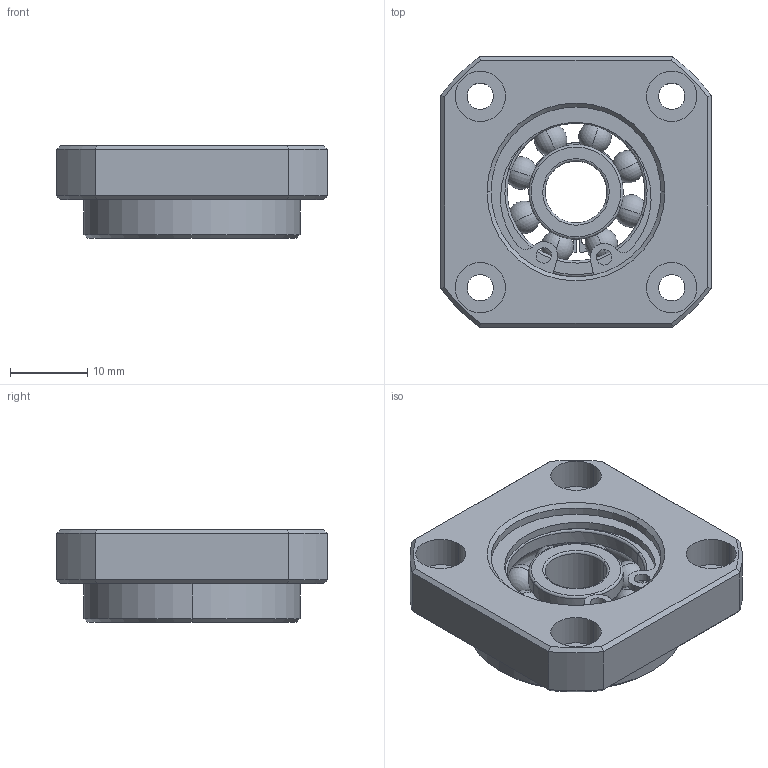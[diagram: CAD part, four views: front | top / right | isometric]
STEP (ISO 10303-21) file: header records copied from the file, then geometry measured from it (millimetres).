
FILE_DESCRIPTION (( 'STEP AP203' ), '1' );
FILE_NAME ('GTR10.STEP', '2014-08-06T06:31:11', ( 'user' ), ( '' ), 'SwSTEP 2.0', 'SolidWorks 2014', '' );
FILE_SCHEMA (( 'CONFIG_CONTROL_DESIGN' ));
Length unit declared in the file: millimetre
Products named in the file (1): GTR10
Bounding box: 35 x 35 x 12 mm (x, y, z)
Surface area: 5982.4 mm2 (no closed solid volume)
Topology: 0 solids, 4 shells, 160 faces, 514 edges, 332 vertices
Faces by surface type: cylinder 64, plane 34, torus 32, sphere 16, cone 14
Entity records: 6016 total; most frequent: CARTESIAN_POINT 1671, DIRECTION 915, ORIENTED_EDGE 887, EDGE_CURVE 474, AXIS2_PLACEMENT_3D 400, VERTEX_POINT 308, CIRCLE 239, EDGE_LOOP 184
